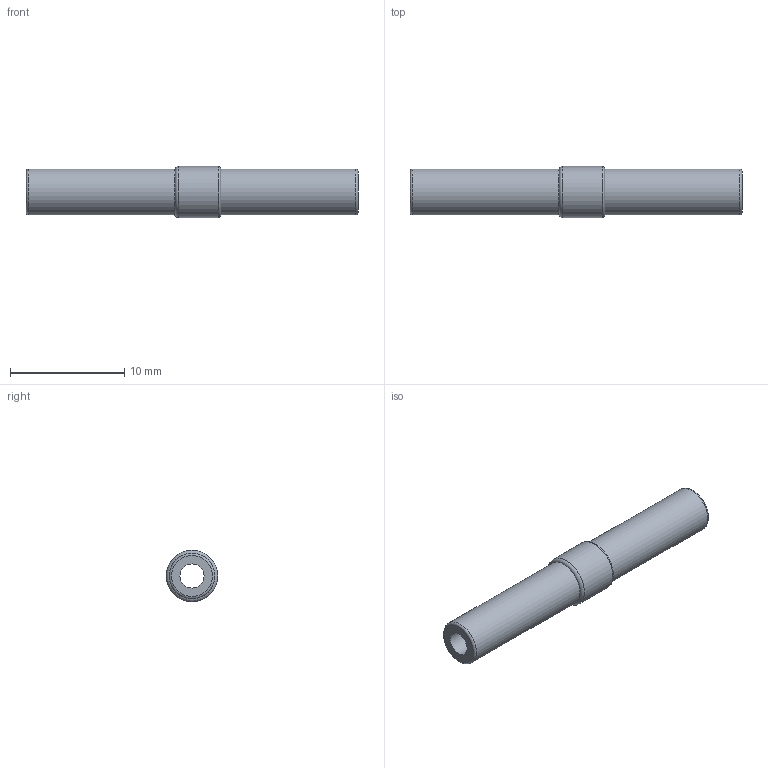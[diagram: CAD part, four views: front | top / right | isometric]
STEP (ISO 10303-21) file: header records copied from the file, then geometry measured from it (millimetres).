
FILE_DESCRIPTION((''),'2;1');
FILE_NAME('E:\2012年度板ﾃﾞｰﾀ\CHIYODA 3D-CAD DATA (Inventor 11)\TOUCH CONNECTOR FIVE (Inventor 11)\[23] JOINT\[01] FR4-4J FR4-4JW.stp','2012-03-21T16:35:44',('kazuhiro.t'),(''),'Autodesk Inventor 11','Autodesk Inventor 11','');
FILE_SCHEMA(('AUTOMOTIVE_DESIGN { 1 0 10303 214 1 1 1 1 }'));
Length unit declared in the file: millimetre
Products named in the file (1): [01] FR4-4J FR4-4JW
Bounding box: 29 x 4.5 x 4.5 mm (x, y, z)
Volume: 276.8 mm3; surface area: 581.7 mm2
Topology: 1 solids, 1 shells, 11 faces, 22 edges, 14 vertices
Faces by surface type: cylinder 4, torus 3, plane 3, bspline 1
Full cylindrical faces by diameter (mm): 2.1 x1, 4 x2, 4.5 x1
Entity records: 273 total; most frequent: CARTESIAN_POINT 60, DIRECTION 44, AXIS2_PLACEMENT_3D 22, ORIENTED_EDGE 22, EDGE_LOOP 22, VERTEX_POINT 11, CIRCLE 11, EDGE_CURVE 11
